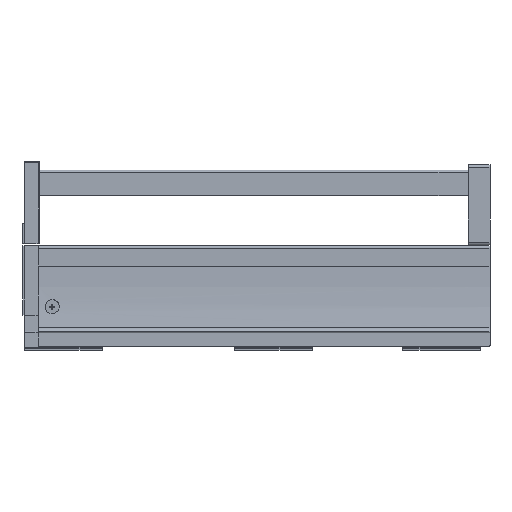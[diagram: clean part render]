
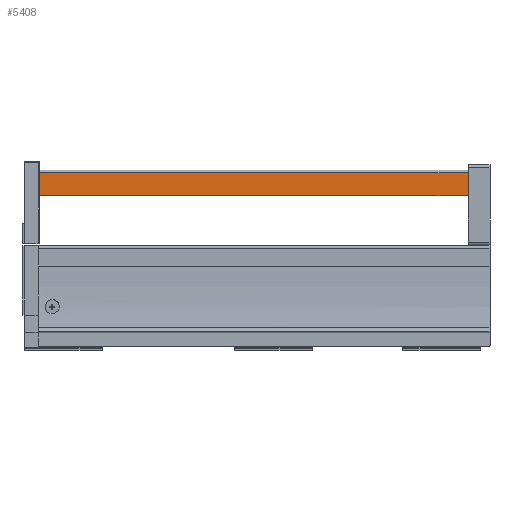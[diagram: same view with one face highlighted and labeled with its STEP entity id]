
A CAD part, left-side view. The second image highlights one B-rep face of the part: STEP entity #5408.
In plain terms, the highlighted planar face has unit normal (-1, 0, 0).
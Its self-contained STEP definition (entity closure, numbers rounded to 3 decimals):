
#199 = EDGE_CURVE ( 'NONE', #5652, #5626, #2988, .T. ) ;
#335 = EDGE_CURVE ( 'NONE', #5650, #5627, #2731, .T. ) ;
#505 = EDGE_CURVE ( 'NONE', #5626, #5627, #809, .T. ) ;
#606 = EDGE_CURVE ( 'NONE', #5650, #5652, #2259, .T. ) ;
#809 = LINE ( 'NONE', #1436, #811 ) ;
#811 = VECTOR ( 'NONE', #1437, 1000. ) ;
#1043 = CARTESIAN_POINT ( 'NONE',  ( -17.15, 638.5, 140.048 ) ) ;
#1051 = DIRECTION ( 'NONE',  ( 0., -1., 0. ) ) ;
#1436 = CARTESIAN_POINT ( 'NONE',  ( -17.15, 25.45, 166.098 ) ) ;
#1437 = DIRECTION ( 'NONE',  ( 0., 0., -1. ) ) ;
#1622 = CARTESIAN_POINT ( 'NONE',  ( -17.15, 522.25, 166.098 ) ) ;
#1623 = DIRECTION ( 'NONE',  ( 0., 0., 1. ) ) ;
#2259 = LINE ( 'NONE', #1622, #2260 ) ;
#2260 = VECTOR ( 'NONE', #1623, 1000. ) ;
#2628 = FACE_OUTER_BOUND ( 'NONE', #3754, .T. ) ;
#2722 = VECTOR ( 'NONE', #1051, 1000. ) ;
#2731 = LINE ( 'NONE', #1043, #2722 ) ;
#2971 = VECTOR ( 'NONE', #5247, 1000. ) ;
#2988 = LINE ( 'NONE', #5276, #2971 ) ;
#3361 = ORIENTED_EDGE ( 'NONE', *, *, #606, .F. ) ;
#3362 = ORIENTED_EDGE ( 'NONE', *, *, #199, .F. ) ;
#3363 = ORIENTED_EDGE ( 'NONE', *, *, #505, .F. ) ;
#3364 = ORIENTED_EDGE ( 'NONE', *, *, #335, .T. ) ;
#3754 = EDGE_LOOP ( 'NONE', ( #3364, #3363, #3362, #3361 ) ) ;
#4159 = AXIS2_PLACEMENT_3D ( 'NONE', #4564, #4567, #4568 ) ;
#4564 = CARTESIAN_POINT ( 'NONE',  ( -17.15, 638.5, 166.098 ) ) ;
#4565 = PLANE ( 'NONE',  #4159 ) ;
#4567 = DIRECTION ( 'NONE',  ( -1., 0., 0. ) ) ;
#4568 = DIRECTION ( 'NONE',  ( 0., 0., -1. ) ) ;
#4827 = CARTESIAN_POINT ( 'NONE',  ( -17.15, 25.45, 166.098 ) ) ;
#4828 = CARTESIAN_POINT ( 'NONE',  ( -17.15, 25.45, 140.048 ) ) ;
#4851 = CARTESIAN_POINT ( 'NONE',  ( -17.15, 522.25, 140.048 ) ) ;
#4853 = CARTESIAN_POINT ( 'NONE',  ( -17.15, 522.25, 166.098 ) ) ;
#5247 = DIRECTION ( 'NONE',  ( 0., -1., 0. ) ) ;
#5276 = CARTESIAN_POINT ( 'NONE',  ( -17.15, 638.5, 166.098 ) ) ;
#5408 = ADVANCED_FACE ( 'NONE', ( #2628 ), #4565, .T. ) ;
#5626 = VERTEX_POINT ( 'NONE', #4827 ) ;
#5627 = VERTEX_POINT ( 'NONE', #4828 ) ;
#5650 = VERTEX_POINT ( 'NONE', #4851 ) ;
#5652 = VERTEX_POINT ( 'NONE', #4853 ) ;
